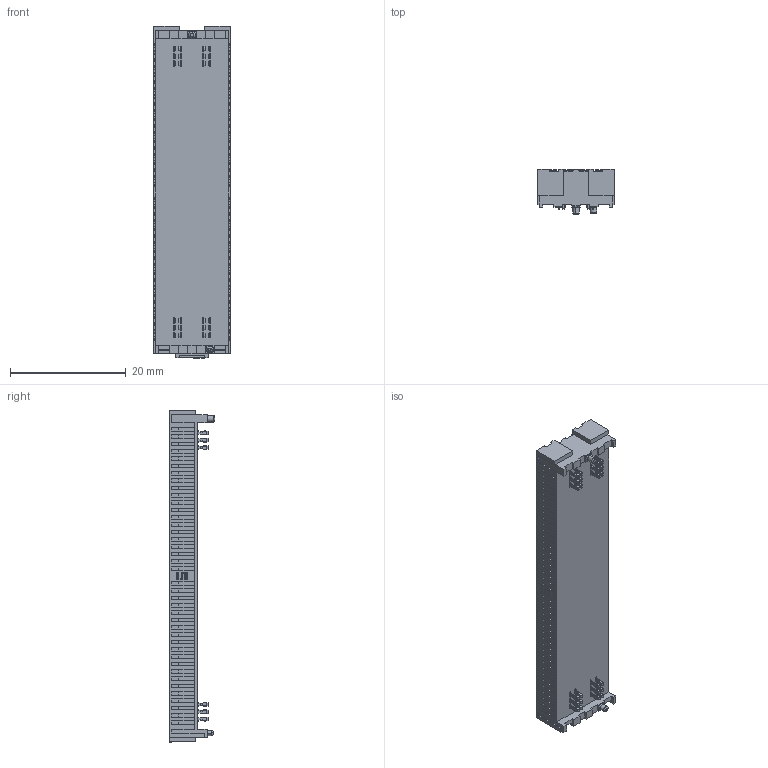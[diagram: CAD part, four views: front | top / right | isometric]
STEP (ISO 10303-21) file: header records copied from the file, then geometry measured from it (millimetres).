
FILE_DESCRIPTION (( 'STEP AP203' ), '1' );
FILE_NAME ('ASP-134603-04.step', '2018-12-19T14:32:28', ( '' ), ( '' ), 'SwSTEP 2.0', 'SolidWorks 2017', '' );
FILE_SCHEMA (( 'CONFIG_CONTROL_DESIGN' ));
Products named in the file (1): ASP-134603-04
Bounding box: 13.24 x 7.82 x 57.45 mm (x, y, z)
Volume: 2253 mm3; surface area: 4247.2 mm2
Topology: 2 solids, 2 shells, 3311 faces, 9071 edges, 5774 vertices
Faces by surface type: plane 2098, cylinder 813, bspline 250, torus 126, cone 24
Entity records: 107547 total; most frequent: CARTESIAN_POINT 26332, ORIENTED_EDGE 18142, DIRECTION 15147, EDGE_CURVE 9071, VECTOR 6299, LINE 6299, VERTEX_POINT 5774, AXIS2_PLACEMENT_3D 4424
